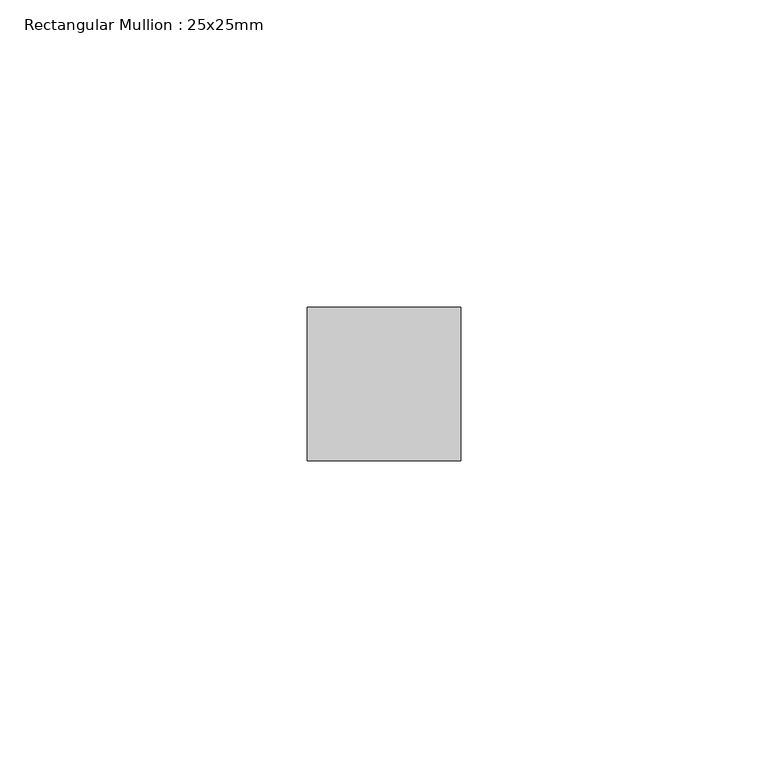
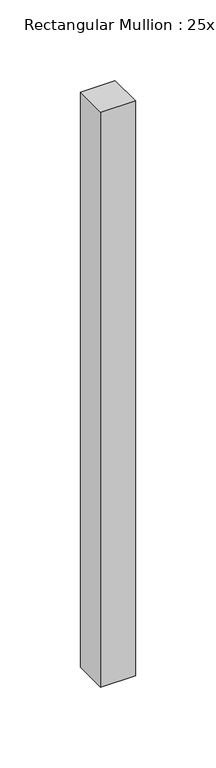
"""IFC4 building model written with IfcOpenShell, lengths in millimetres: member geometry, Rectangular Mullion : 25x25mm."""

import ifcopenshell
import ifcopenshell.guid

model = None  # the IFC model being written
_history = None  # IfcOwnerHistory: only IFC2X3 demands one
_inside = {}  # id of a spatial element -> (the spatial element, [elements in it])
_under = {}  # id of a project, library or spatial element -> (it, [spatial elements below it])
_declared = {}  # id of a project -> (the project, [libraries it declares])
_typed = {}  # id of a type object -> (the type object, [elements of that type])
_made_of = {}  # id of a material, layer set ... -> (it, [elements and type objects made of it])


def new_model(schema):
    """Start an empty IFC model of exactly this schema.

    Asked for "IFC4X3", IfcOpenShell would pick the latest addendum, in which some entities
    have other attributes; the version numbers below select the first issue.
    IFC2X3 requires an IfcOwnerHistory on every rooted entity: one is made here for all.
    """
    global model, _history
    if schema == "IFC4X3":
        model = ifcopenshell.file(schema_version=(4, 3, 0, 0))
    else:
        model = ifcopenshell.file(schema=schema)
    _inside.clear()
    _under.clear()
    _declared.clear()
    _typed.clear()
    _made_of.clear()
    _history = None
    if model.schema == "IFC2X3":
        org = make("IfcOrganization", Name="unknown")
        user = make(
            "IfcPersonAndOrganization",
            ThePerson=make("IfcPerson", FamilyName="unknown"),
            TheOrganization=org,
        )
        app = make(
            "IfcApplication",
            ApplicationDeveloper=org,
            Version="unknown",
            ApplicationFullName="unknown",
            ApplicationIdentifier="unknown",
        )
        _history = make(
            "IfcOwnerHistory",
            OwningUser=user,
            OwningApplication=app,
            ChangeAction="ADDED",
            CreationDate=0,
        )
    return model


def make(cls, **values):
    """One entity of the class cls with the attributes given. An attribute that is None is left unset."""
    return model.create_entity(
        cls, **{name: value for name, value in values.items() if value is not None}
    )


def rooted(cls, **values):
    """An entity with a GlobalId (a new one), such as an element, a storey or a relation."""
    return make(cls, GlobalId=ifcopenshell.guid.new(), OwnerHistory=_history, **values)


def si_unit(unit_type, name, prefix=None):
    """IfcSIUnit, for example si_unit("LENGTHUNIT", "METRE", prefix="MILLI")."""
    return make("IfcSIUnit", UnitType=unit_type, Prefix=prefix, Name=name)


def assignment(units):
    """IfcUnitAssignment: the units of a project."""
    return None if units is None else make("IfcUnitAssignment", Units=units)


def point(xyz):
    """IfcCartesianPoint."""
    return None if xyz is None else make("IfcCartesianPoint", Coordinates=xyz)


def direction(xyz):
    """IfcDirection."""
    return None if xyz is None else make("IfcDirection", DirectionRatios=xyz)


def frame(location, z_axis=None, x_axis=None):
    """IfcAxis2Placement3D, a coordinate frame: its origin and axes. An axis left out is left unset."""
    return make(
        "IfcAxis2Placement3D",
        Location=point(location),
        Axis=direction(z_axis),
        RefDirection=direction(x_axis),
    )


def origin():
    """The frame at (0, 0, 0) with its axes left unset."""
    return frame((0.0, 0.0, 0.0))


def place(relative_to, where):
    """IfcLocalPlacement: puts the frame where relative to a parent placement (None: the world)."""
    return make(
        "IfcLocalPlacement", PlacementRelTo=relative_to, RelativePlacement=where
    )


def context(
    kind, dimensions, precision=None, world=None, true_north=None, identifier=None
):
    """IfcGeometricRepresentationContext, for example the 3D "Model" context."""
    return make(
        "IfcGeometricRepresentationContext",
        ContextIdentifier=identifier,
        ContextType=kind,
        CoordinateSpaceDimension=dimensions,
        Precision=precision,
        WorldCoordinateSystem=world,
        TrueNorth=true_north,
    )


def project(units=None, contexts=None):
    """IfcProject with its units and contexts."""
    return rooted(
        "IfcProject",
        Name="project",
        RepresentationContexts=contexts,
        UnitsInContext=assignment(units),
    )


def spatial(cls, under=None, at=None, **own):
    """A site, building, storey or space (cls), placed at a placement, below another one or the project."""
    s = rooted(cls, ObjectPlacement=at, **own)
    if under is not None:
        _under.setdefault(under.id(), (under, []))[1].append(s)
    return s


def polyline(points):
    """IfcPolyline through the points."""
    return make("IfcPolyline", Points=[point(p) for p in points])


def outline(outer, holes=None, kind="AREA"):
    """IfcArbitraryClosedProfileDef: a profile drawn as a closed curve; with holes, ...WithVoids."""
    if holes is None:
        return make("IfcArbitraryClosedProfileDef", ProfileType=kind, OuterCurve=outer)
    return make(
        "IfcArbitraryProfileDefWithVoids",
        ProfileType=kind,
        OuterCurve=outer,
        InnerCurves=holes,
    )


def extrude(swept, where, along, depth):
    """IfcExtrudedAreaSolid: the profile swept, set in the frame where, extruded along a direction by depth."""
    return make(
        "IfcExtrudedAreaSolid",
        SweptArea=swept,
        Position=where,
        ExtrudedDirection=direction(along),
        Depth=depth,
    )


def shape(context_of_items, identifier, shape_type, items):
    """IfcShapeRepresentation: the items that make up one representation, for example the "Body"."""
    return make(
        "IfcShapeRepresentation",
        ContextOfItems=context_of_items,
        RepresentationIdentifier=identifier,
        RepresentationType=shape_type,
        Items=items,
    )


def source(mapping_origin, context_of_items, identifier, shape_type, items):
    """IfcRepresentationMap: a shape defined once, which mapped items show again and again."""
    return make(
        "IfcRepresentationMap",
        MappingOrigin=mapping_origin,
        MappedRepresentation=shape(context_of_items, identifier, shape_type, items),
    )


def transform(
    local_origin,
    x_axis=None,
    y_axis=None,
    z_axis=None,
    scale=None,
    scale2=None,
    scale3=None,
    uniform=True,
):
    """IfcCartesianTransformationOperator3D, or its non-uniform kind. x_axis, y_axis, z_axis: its Axis1, 2, 3."""
    if uniform:
        return make(
            "IfcCartesianTransformationOperator3D",
            Axis1=direction(x_axis),
            Axis2=direction(y_axis),
            LocalOrigin=point(local_origin),
            Scale=scale,
            Axis3=direction(z_axis),
        )
    return make(
        "IfcCartesianTransformationOperator3DnonUniform",
        Axis1=direction(x_axis),
        Axis2=direction(y_axis),
        LocalOrigin=point(local_origin),
        Scale=scale,
        Axis3=direction(z_axis),
        Scale2=scale2,
        Scale3=scale3,
    )


def mapped(mapping_source, mapping_target):
    """IfcMappedItem: shows the shape of a source again, moved by a transform."""
    return make(
        "IfcMappedItem", MappingSource=mapping_source, MappingTarget=mapping_target
    )


def made_of(thing, what):
    """Note that an element or type object is made of a material, layer set ...; save() writes the relation."""
    if what is not None:
        _made_of.setdefault(what.id(), (what, []))[1].append(thing)
    return thing


def element(
    cls,
    number,
    at=None,
    inside=None,
    cuts=None,
    type_object=None,
    material=None,
    context=None,
    identifier="Body",
    shape_type=None,
    held_by="IfcProductDefinitionShape",
    body=None,
    shapes=None,
    **own,
):
    """One element of the class cls, such as IfcWall. Its Tag is "e" and its number.

    at: its placement. inside: the storey or other place that contains it. cuts: it is an
    opening in that element (IfcRelVoidsElement). A single representation is given by context,
    identifier, shape_type and body (its items); several are given by shapes. held_by: the class
    of the entity that holds the representations. save() writes the other relations.
    """
    e = rooted(cls, Tag="e%d" % number, ObjectPlacement=at, **own)
    if body is not None:
        shapes = [shape(context, identifier, shape_type, body)]
    if shapes is not None:
        e.Representation = make(held_by, Representations=shapes)
    if inside is not None:
        _inside.setdefault(inside.id(), (inside, []))[1].append(e)
    if cuts is not None:
        rooted(
            "IfcRelVoidsElement", RelatingBuildingElement=cuts, RelatedOpeningElement=e
        )
    if type_object is not None:
        _typed.setdefault(type_object.id(), (type_object, []))[1].append(e)
    return made_of(e, material)


def aggregate(whole, parts):
    """IfcRelAggregates: a whole, such as a stair, and the parts it consists of."""
    return rooted("IfcRelAggregates", RelatingObject=whole, RelatedObjects=parts)


def save(model, path):
    """Write the relations noted so far, then the file.

    IfcRelAggregates (storeys below a building ...), IfcRelContainedInSpatialStructure (elements
    in a storey), IfcRelDefinesByType, IfcRelAssociatesMaterial and IfcRelDeclares: one each for
    every whole, place, type object, material and project.
    """
    for whole, parts in _under.values():
        aggregate(whole, parts)
    for where, things in _inside.values():
        rooted(
            "IfcRelContainedInSpatialStructure",
            RelatedElements=things,
            RelatingStructure=where,
        )
    for kind, things in _typed.values():
        rooted("IfcRelDefinesByType", RelatedObjects=things, RelatingType=kind)
    for what, things in _made_of.values():
        rooted("IfcRelAssociatesMaterial", RelatedObjects=things, RelatingMaterial=what)
    for by, libraries in _declared.values():
        rooted("IfcRelDeclares", RelatingContext=by, RelatedDefinitions=libraries)
    model.write(path)


def rectangular_mullion_25x25mm_394869ee(model_context):
    return source(origin(), model_context, "Body", "SweptSolid", [
        extrude(outline(polyline([(0.0, 24.5), (0.0, -0.5), (-25.0, -0.5), (-25.0, 24.5), (0.0, 24.5)])), frame((0.0, 0.0, -436.25), z_axis=(0.0, 0.0, 1.0), x_axis=(1.0, 0.0, 0.0)), (0.0, 0.0, 1.0), 436.25),
    ])


if __name__ == "__main__":
    model = new_model("IFC4")
    model_context = context("Model", 3, world=origin())
    ifc_project = project(units=[si_unit("LENGTHUNIT", "METRE", prefix="MILLI")], contexts=[model_context])
    site = spatial("IfcSite", under=ifc_project)
    building = spatial("IfcBuilding", under=site)
    placement = place(None, origin())
    rectangular_mullion_25x25mm_shape = rectangular_mullion_25x25mm_394869ee(model_context)
    element("IfcMember", 1, ObjectType="Rectangular Mullion : 25x25mm", at=placement, inside=building, context=model_context, shape_type="MappedRepresentation", body=[
        mapped(rectangular_mullion_25x25mm_shape, transform((0.0, 0.0, 0.0), x_axis=(1.0, 0.0, 0.0), y_axis=(0.0, 1.0, 0.0), z_axis=(0.0, 0.0, 1.0))),
    ])
    save(model, "model.ifc")
